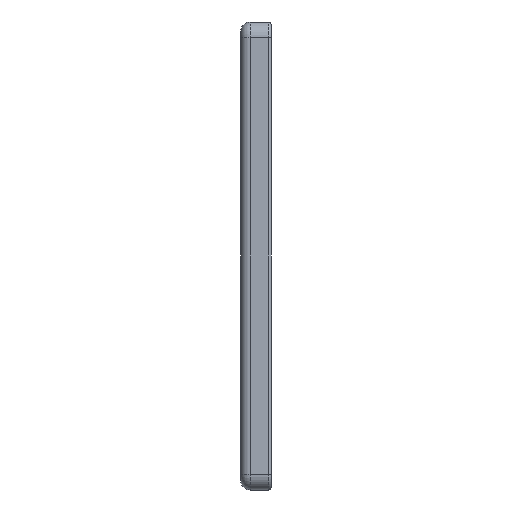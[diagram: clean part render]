
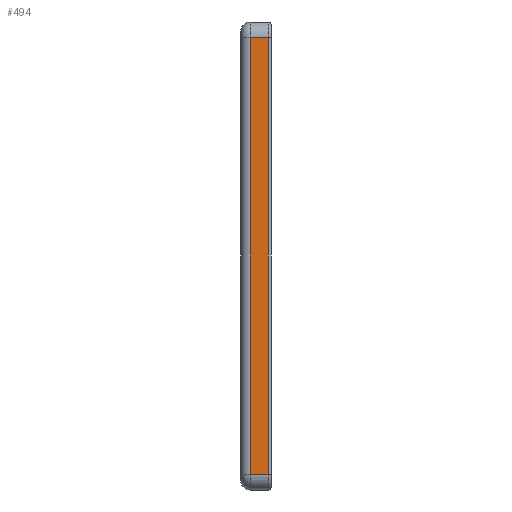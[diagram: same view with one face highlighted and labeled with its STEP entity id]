
A CAD part, left-side view. The second image highlights one B-rep face of the part: STEP entity #494.
In plain terms, the highlighted planar face has unit normal (-1, 0, 0).
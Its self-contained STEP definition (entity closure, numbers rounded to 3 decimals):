
#149 = FACE_OUTER_BOUND ( 'NONE', #1705, .T. ) ;
#236 = LINE ( 'NONE', #2638, #243 ) ;
#243 = VECTOR ( 'NONE', #2627, 1000. ) ;
#263 = LINE ( 'NONE', #2557, #274 ) ;
#273 = LINE ( 'NONE', #2555, #276 ) ;
#274 = VECTOR ( 'NONE', #2556, 1000. ) ;
#276 = VECTOR ( 'NONE', #2554, 1000. ) ;
#494 = ADVANCED_FACE ( 'NONE', ( #149 ), #2644, .F. ) ;
#720 = CARTESIAN_POINT ( 'NONE',  ( -150., 6.8, 70. ) ) ;
#723 = CARTESIAN_POINT ( 'NONE',  ( -150., 1., -70. ) ) ;
#727 = CARTESIAN_POINT ( 'NONE',  ( -150., 6.8, -70. ) ) ;
#754 = CARTESIAN_POINT ( 'NONE',  ( -150., 1., 70. ) ) ;
#1173 = AXIS2_PLACEMENT_3D ( 'NONE', #2647, #2643, #2642 ) ;
#1189 = EDGE_CURVE ( 'NONE', #3183, #3184, #236, .T. ) ;
#1215 = EDGE_CURVE ( 'NONE', #3181, #3183, #263, .T. ) ;
#1216 = EDGE_CURVE ( 'NONE', #3184, #3189, #273, .T. ) ;
#1239 = EDGE_CURVE ( 'NONE', #3189, #3181, #1776, .T. ) ;
#1705 = EDGE_LOOP ( 'NONE', ( #3678, #3675, #3606, #3746 ) ) ;
#1776 = LINE ( 'NONE', #2492, #1778 ) ;
#1778 = VECTOR ( 'NONE', #2491, 1000. ) ;
#2491 = DIRECTION ( 'NONE',  ( 0., 0., -1. ) ) ;
#2492 = CARTESIAN_POINT ( 'NONE',  ( -150., 6.8, 75. ) ) ;
#2554 = DIRECTION ( 'NONE',  ( 0., 1., 0. ) ) ;
#2555 = CARTESIAN_POINT ( 'NONE',  ( -150., 9.8, 70. ) ) ;
#2556 = DIRECTION ( 'NONE',  ( 0., -1., 0. ) ) ;
#2557 = CARTESIAN_POINT ( 'NONE',  ( -150., 9.8, -70. ) ) ;
#2627 = DIRECTION ( 'NONE',  ( 0., 0., 1. ) ) ;
#2638 = CARTESIAN_POINT ( 'NONE',  ( -150., 1., 75. ) ) ;
#2642 = DIRECTION ( 'NONE',  ( 0., 0., -1. ) ) ;
#2643 = DIRECTION ( 'NONE',  ( 1., 0., 0. ) ) ;
#2644 = PLANE ( 'NONE',  #1173 ) ;
#2647 = CARTESIAN_POINT ( 'NONE',  ( -150., 9.8, 75. ) ) ;
#3181 = VERTEX_POINT ( 'NONE', #727 ) ;
#3183 = VERTEX_POINT ( 'NONE', #723 ) ;
#3184 = VERTEX_POINT ( 'NONE', #754 ) ;
#3189 = VERTEX_POINT ( 'NONE', #720 ) ;
#3606 = ORIENTED_EDGE ( 'NONE', *, *, #1216, .T. ) ;
#3675 = ORIENTED_EDGE ( 'NONE', *, *, #1189, .T. ) ;
#3678 = ORIENTED_EDGE ( 'NONE', *, *, #1215, .T. ) ;
#3746 = ORIENTED_EDGE ( 'NONE', *, *, #1239, .T. ) ;
